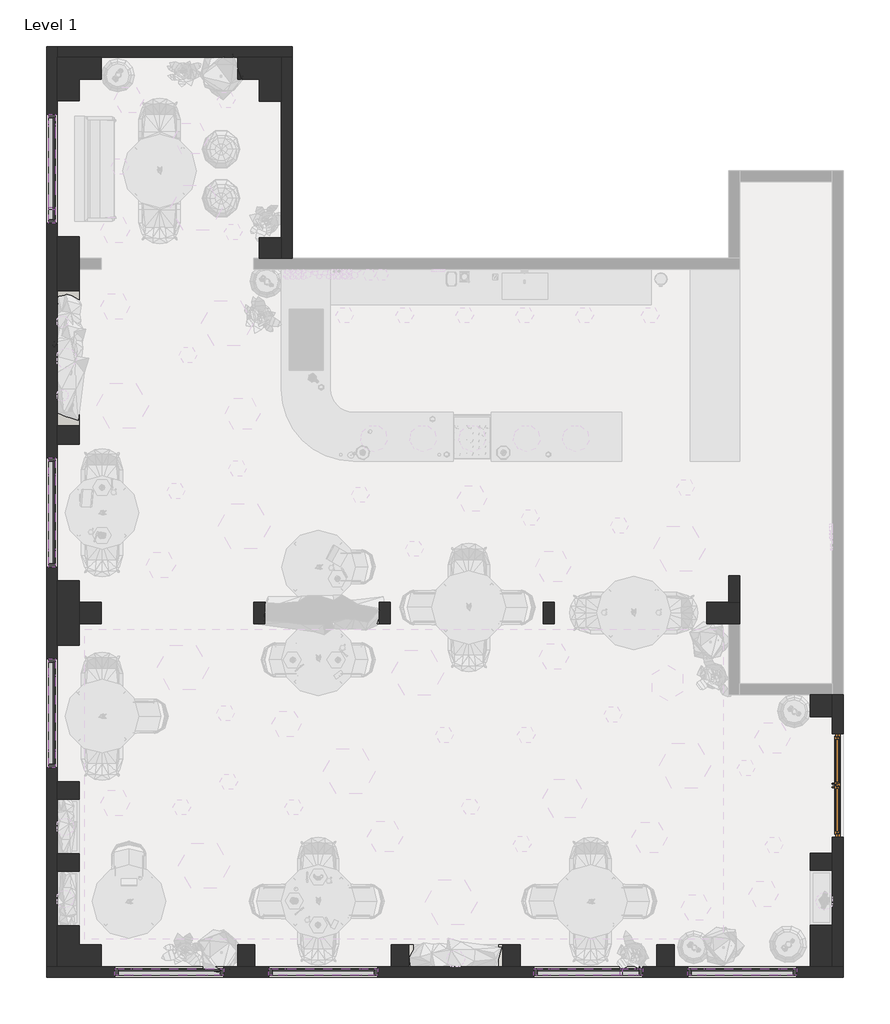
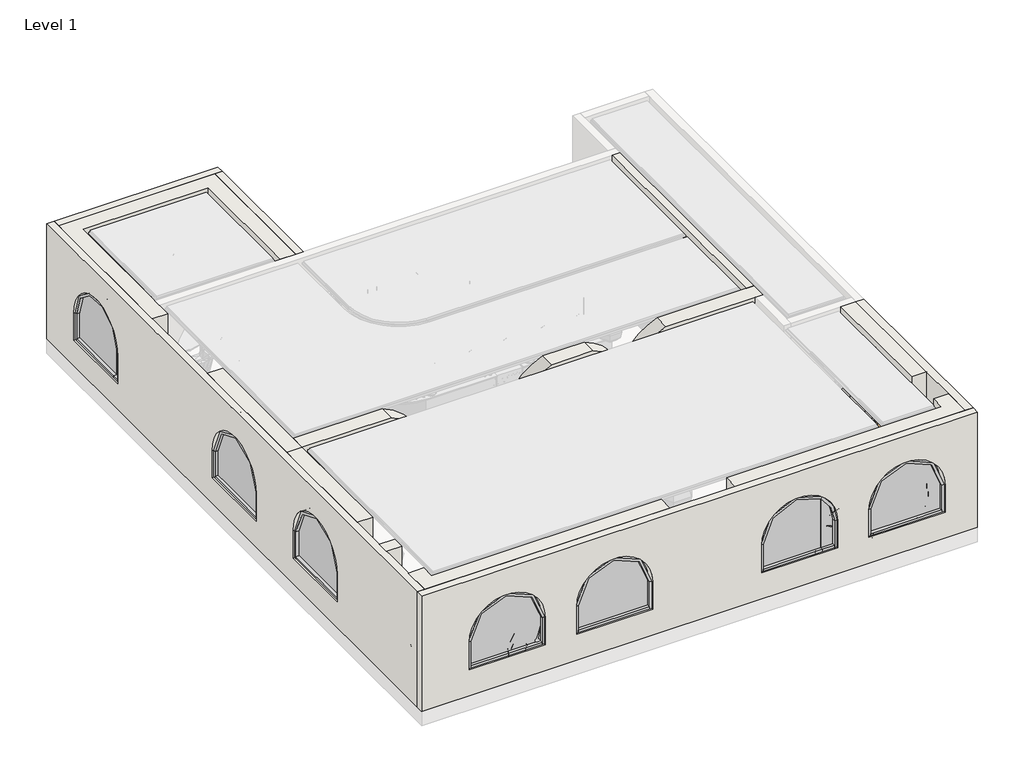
# One storey, part 1 of 5: 32 members, 8 plates, 8 walls, 1 door.
"""IFC4 building model written with IfcOpenShell, lengths in millimetres."""

from ifc_helpers import new_model, si_unit, frame, origin, origin_with_axes, place, context, project, spatial, polyline, circle_curve, outline, extrude, faceted_brep, transform, mapped, element, save
from ifc_brep_helpers import plane_surface, cylinder_surface, revolved_surface, advanced_brep
from components import door_6dfe5dd6, door_fb300161, rectangular_mullion_rectangular_mullion_1_03948899, rectangular_mullion_rectangular_mullion_1_28b96d86, rectangular_mullion_rectangular_mullion_1_f4f6b5f9, rectangular_mullion_rectangular_mullion_1_8472e7ee, rectangular_mullion_rectangular_mullion_1_5157a9ce, rectangular_mullion_rectangular_mullion_1_7fe311f0, rectangular_mullion_rectangular_mullion_1_14760a62, rectangular_mullion_rectangular_mullion_1_e45695c4, rectangular_mullion_rectangular_mullion_1_44025b5a, rectangular_mullion_rectangular_mullion_1_041cd801, rectangular_mullion_rectangular_mullion_1_71a928bc, rectangular_mullion_rectangular_mullion_1_e2af7eb3, system_panel_glazed_120e4517, system_panel_glazed_8ac893f6, system_panel_glazed_e6b3609a, system_panel_glazed_47a2865e, system_panel_glazed_592029a4, system_panel_glazed_b415359f, walls_1_walls_1_fb9d67e2, walls_2_walls_2_3500fc2a

model = new_model("IFC4")

# Units and contexts
model_context = context("Model", 3, world=origin())
ifc_project = project(units=[si_unit("LENGTHUNIT", "METRE", prefix="MILLI")], contexts=[model_context])

# Site, building, storey
site = spatial("IfcSite", under=ifc_project)
building = spatial("IfcBuilding", under=site)
storey = spatial("IfcBuildingStorey", under=building, Name="Level 1", Elevation=0.0)

# Door
placement = place(None, origin())
door_shape = door_6dfe5dd6(model_context)
door_2_shape = door_fb300161(model_context)
element("IfcDoor", 1, ObjectType="Doors_GEALAN_S9000_Double-Vent-Door : Doors_GEALAN_S9000_Double-Vent-Door", at=placement, inside=storey, context=model_context, shape_type="MappedRepresentation", body=[
    mapped(door_shape, transform((25935.1576528, -149.6399174, 0.0), x_axis=(0.0, -1.0, 0.0), y_axis=(1.0, 0.0, 0.0), z_axis=(0.0, 0.0, 1.0))),
    mapped(door_2_shape, transform((25935.1576528, -149.6399174, 0.0), x_axis=(0.0, -1.0, 0.0), y_axis=(1.0, 0.0, 0.0), z_axis=(0.0, 0.0, 1.0))),
])

# Members
rectangular_mullion_rectangular_mullion_1_shape = rectangular_mullion_rectangular_mullion_1_03948899(model_context)
element("IfcMember", 2, ObjectType="Rectangular Mullion : Rectangular Mullion 1", at=placement, inside=storey, context=model_context, shape_type="MappedRepresentation", body=[
    mapped(rectangular_mullion_rectangular_mullion_1_shape, transform((11535.1576528, 10150.3600826, 1472.3), x_axis=(0.0, -1.0, 0.0), y_axis=(-1.0, 0.0, 0.0), z_axis=(0.0, 0.0, -1.0))),
])
rectangular_mullion_rectangular_mullion_1_2_shape = rectangular_mullion_rectangular_mullion_1_28b96d86(model_context)
element("IfcMember", 3, ObjectType="Rectangular Mullion : Rectangular Mullion 1", at=placement, inside=storey, context=model_context, shape_type="MappedRepresentation", body=[
    mapped(rectangular_mullion_rectangular_mullion_1_2_shape, transform((11535.1576528, 10150.3600826, 722.3), x_axis=(0.0, -1.0, 0.0), y_axis=(-1.0, 0.0, 0.0), z_axis=(0.0, 0.0, -1.0))),
])
rectangular_mullion_rectangular_mullion_1_3_shape = rectangular_mullion_rectangular_mullion_1_f4f6b5f9(model_context)
element("IfcMember", 4, ObjectType="Rectangular Mullion : Rectangular Mullion 1", at=placement, inside=storey, context=model_context, shape_type="MappedRepresentation", body=[
    mapped(rectangular_mullion_rectangular_mullion_1_3_shape, transform((11535.1576528, 10397.0267491, 722.3), x_axis=(0.0, 0.0, -1.0), y_axis=(-1.0, 0.0, 0.0), z_axis=(0.0, 1.0, 0.0))),
])
rectangular_mullion_rectangular_mullion_1_4_shape = rectangular_mullion_rectangular_mullion_1_8472e7ee(model_context)
element("IfcMember", 5, ObjectType="Rectangular Mullion : Rectangular Mullion 1", at=placement, inside=storey, context=model_context, shape_type="MappedRepresentation", body=[
    mapped(rectangular_mullion_rectangular_mullion_1_4_shape, transform((11535.1576528, 10397.0267491, 2129.938874), x_axis=(0.0, -0.753333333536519, 0.6576388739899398), y_axis=(-1.0, 0.0, 0.0), z_axis=(0.0, -0.6576388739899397, -0.7533333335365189))),
])
rectangular_mullion_rectangular_mullion_1_5_shape = rectangular_mullion_rectangular_mullion_1_5157a9ce(model_context)
element("IfcMember", 6, ObjectType="Rectangular Mullion : Rectangular Mullion 1", at=placement, inside=storey, context=model_context, shape_type="MappedRepresentation", body=[
    mapped(rectangular_mullion_rectangular_mullion_1_5_shape, transform((11535.1576528, 12086.8600826, 722.3), x_axis=(0.0, 0.0, -1.0), y_axis=(-1.0, 0.0, 0.0), z_axis=(0.0, 1.0, 0.0))),
])
element("IfcMember", 7, ObjectType="Rectangular Mullion : Rectangular Mullion 1", at=placement, inside=storey, context=model_context, shape_type="MappedRepresentation", body=[
    mapped(rectangular_mullion_rectangular_mullion_1_2_shape, transform((11535.1576528, 12150.3600826, 1472.3), x_axis=(0.0, 1.0, 0.0), y_axis=(-1.0, 0.0, 0.0), z_axis=(0.0, 0.0, 1.0))),
])
rectangular_mullion_rectangular_mullion_1_6_shape = rectangular_mullion_rectangular_mullion_1_7fe311f0(model_context)
element("IfcMember", 8, ObjectType="Rectangular Mullion : Rectangular Mullion 1", at=placement, inside=storey, context=model_context, shape_type="MappedRepresentation", body=[
    mapped(rectangular_mullion_rectangular_mullion_1_6_shape, transform((11535.1576528, 3850.3600826, 1472.3), x_axis=(0.0, -1.0, 0.0), y_axis=(-1.0, 0.0, 0.0), z_axis=(0.0, 0.0, -1.0))),
])
element("IfcMember", 9, ObjectType="Rectangular Mullion : Rectangular Mullion 1", at=placement, inside=storey, context=model_context, shape_type="MappedRepresentation", body=[
    mapped(rectangular_mullion_rectangular_mullion_1_6_shape, transform((11535.1576528, 170.3600826, 1472.3), x_axis=(0.0, -1.0, 0.0), y_axis=(-1.0, 0.0, 0.0), z_axis=(0.0, 0.0, -1.0))),
])
element("IfcMember", 10, ObjectType="Rectangular Mullion : Rectangular Mullion 1", at=placement, inside=storey, context=model_context, shape_type="MappedRepresentation", body=[
    mapped(rectangular_mullion_rectangular_mullion_1_6_shape, transform((14685.1576528, -3569.6399174, 1472.3269791), x_axis=(1.0, 0.0, 0.0), y_axis=(0.0, -1.0, 0.0), z_axis=(0.0, 0.0, -1.0))),
])
element("IfcMember", 11, ObjectType="Rectangular Mullion : Rectangular Mullion 1", at=placement, inside=storey, context=model_context, shape_type="MappedRepresentation", body=[
    mapped(rectangular_mullion_rectangular_mullion_1_6_shape, transform((17505.1576528, -3569.6399174, 1472.3269791), x_axis=(1.0, 0.0, 0.0), y_axis=(0.0, -1.0, 0.0), z_axis=(0.0, 0.0, -1.0))),
])
element("IfcMember", 12, ObjectType="Rectangular Mullion : Rectangular Mullion 1", at=placement, inside=storey, context=model_context, shape_type="MappedRepresentation", body=[
    mapped(rectangular_mullion_rectangular_mullion_1_6_shape, transform((25185.1576528, -3569.6399174, 1472.3269791), x_axis=(1.0, 0.0, 0.0), y_axis=(0.0, -1.0, 0.0), z_axis=(0.0, 0.0, -1.0))),
])
element("IfcMember", 13, ObjectType="Rectangular Mullion : Rectangular Mullion 1", at=placement, inside=storey, context=model_context, shape_type="MappedRepresentation", body=[
    mapped(rectangular_mullion_rectangular_mullion_1_2_shape, transform((11535.1576528, 3850.3600826, 722.3), x_axis=(0.0, -1.0, 0.0), y_axis=(-1.0, 0.0, 0.0), z_axis=(0.0, 0.0, -1.0))),
])
element("IfcMember", 14, ObjectType="Rectangular Mullion : Rectangular Mullion 1", at=placement, inside=storey, context=model_context, shape_type="MappedRepresentation", body=[
    mapped(rectangular_mullion_rectangular_mullion_1_2_shape, transform((11535.1576528, 170.3600826, 722.3), x_axis=(0.0, -1.0, 0.0), y_axis=(-1.0, 0.0, 0.0), z_axis=(0.0, 0.0, -1.0))),
])
rectangular_mullion_rectangular_mullion_1_7_shape = rectangular_mullion_rectangular_mullion_1_14760a62(model_context)
element("IfcMember", 15, ObjectType="Rectangular Mullion : Rectangular Mullion 1", at=placement, inside=storey, context=model_context, shape_type="MappedRepresentation", body=[
    mapped(rectangular_mullion_rectangular_mullion_1_7_shape, transform((11535.1576528, 5786.8600826, 722.3), x_axis=(0.0, 0.0, -1.0), y_axis=(-1.0, 0.0, 0.0), z_axis=(0.0, 1.0, 0.0))),
])
element("IfcMember", 16, ObjectType="Rectangular Mullion : Rectangular Mullion 1", at=placement, inside=storey, context=model_context, shape_type="MappedRepresentation", body=[
    mapped(rectangular_mullion_rectangular_mullion_1_7_shape, transform((11535.1576528, 2106.8600826, 722.3), x_axis=(0.0, 0.0, -1.0), y_axis=(-1.0, 0.0, 0.0), z_axis=(0.0, 1.0, 0.0))),
])
element("IfcMember", 17, ObjectType="Rectangular Mullion : Rectangular Mullion 1", at=placement, inside=storey, context=model_context, shape_type="MappedRepresentation", body=[
    mapped(rectangular_mullion_rectangular_mullion_1_7_shape, transform((12748.6576528, -3569.6399174, 722.3), x_axis=(0.0, 0.0, -1.0), y_axis=(0.0, -1.0, 0.0), z_axis=(-1.0, 0.0, 0.0))),
])
element("IfcMember", 18, ObjectType="Rectangular Mullion : Rectangular Mullion 1", at=placement, inside=storey, context=model_context, shape_type="MappedRepresentation", body=[
    mapped(rectangular_mullion_rectangular_mullion_1_7_shape, transform((15568.6576528, -3569.6399174, 722.3), x_axis=(0.0, 0.0, -1.0), y_axis=(0.0, -1.0, 0.0), z_axis=(-1.0, 0.0, 0.0))),
])
element("IfcMember", 19, ObjectType="Rectangular Mullion : Rectangular Mullion 1", at=placement, inside=storey, context=model_context, shape_type="MappedRepresentation", body=[
    mapped(rectangular_mullion_rectangular_mullion_1_7_shape, transform((23248.6576528, -3569.6399174, 722.3), x_axis=(0.0, 0.0, -1.0), y_axis=(0.0, -1.0, 0.0), z_axis=(-1.0, 0.0, 0.0))),
])
element("IfcMember", 20, ObjectType="Rectangular Mullion : Rectangular Mullion 1", at=placement, inside=storey, context=model_context, shape_type="MappedRepresentation", body=[
    mapped(rectangular_mullion_rectangular_mullion_1_2_shape, transform((11535.1576528, 5850.3600826, 1472.3), x_axis=(0.0, 1.0, 0.0), y_axis=(-1.0, 0.0, 0.0), z_axis=(0.0, 0.0, 1.0))),
])
element("IfcMember", 21, ObjectType="Rectangular Mullion : Rectangular Mullion 1", at=placement, inside=storey, context=model_context, shape_type="MappedRepresentation", body=[
    mapped(rectangular_mullion_rectangular_mullion_1_2_shape, transform((11535.1576528, 2170.3600826, 1472.3), x_axis=(0.0, 1.0, 0.0), y_axis=(-1.0, 0.0, 0.0), z_axis=(0.0, 0.0, 1.0))),
])
element("IfcMember", 22, ObjectType="Rectangular Mullion : Rectangular Mullion 1", at=placement, inside=storey, context=model_context, shape_type="MappedRepresentation", body=[
    mapped(rectangular_mullion_rectangular_mullion_1_2_shape, transform((12685.1576528, -3569.6399174, 1472.3269791), x_axis=(-1.0, 0.0, 0.0), y_axis=(0.0, -1.0, 0.0), z_axis=(0.0, 0.0, 1.0))),
])
element("IfcMember", 23, ObjectType="Rectangular Mullion : Rectangular Mullion 1", at=placement, inside=storey, context=model_context, shape_type="MappedRepresentation", body=[
    mapped(rectangular_mullion_rectangular_mullion_1_2_shape, transform((15505.1576528, -3569.6399174, 1472.3269791), x_axis=(-1.0, 0.0, 0.0), y_axis=(0.0, -1.0, 0.0), z_axis=(0.0, 0.0, 1.0))),
])
element("IfcMember", 24, ObjectType="Rectangular Mullion : Rectangular Mullion 1", at=placement, inside=storey, context=model_context, shape_type="MappedRepresentation", body=[
    mapped(rectangular_mullion_rectangular_mullion_1_2_shape, transform((23185.1576528, -3569.6399174, 1472.3269791), x_axis=(-1.0, 0.0, 0.0), y_axis=(0.0, -1.0, 0.0), z_axis=(0.0, 0.0, 1.0))),
])
rectangular_mullion_rectangular_mullion_1_8_shape = rectangular_mullion_rectangular_mullion_1_e45695c4(model_context)
element("IfcMember", 25, ObjectType="Rectangular Mullion : Rectangular Mullion 1", at=placement, inside=storey, context=model_context, shape_type="MappedRepresentation", body=[
    mapped(rectangular_mullion_rectangular_mullion_1_8_shape, transform((14685.1576528, -3569.6399174, 722.3), x_axis=(1.0, 0.0, 0.0), y_axis=(0.0, -1.0, 0.0), z_axis=(0.0, 0.0, -1.0))),
])
element("IfcMember", 26, ObjectType="Rectangular Mullion : Rectangular Mullion 1", at=placement, inside=storey, context=model_context, shape_type="MappedRepresentation", body=[
    mapped(rectangular_mullion_rectangular_mullion_1_8_shape, transform((17505.1576528, -3569.6399174, 722.3), x_axis=(1.0, 0.0, 0.0), y_axis=(0.0, -1.0, 0.0), z_axis=(0.0, 0.0, -1.0))),
])
element("IfcMember", 27, ObjectType="Rectangular Mullion : Rectangular Mullion 1", at=placement, inside=storey, context=model_context, shape_type="MappedRepresentation", body=[
    mapped(rectangular_mullion_rectangular_mullion_1_8_shape, transform((25185.1576528, -3569.6399174, 722.3), x_axis=(1.0, 0.0, 0.0), y_axis=(0.0, -1.0, 0.0), z_axis=(0.0, 0.0, -1.0))),
])
rectangular_mullion_rectangular_mullion_1_9_shape = rectangular_mullion_rectangular_mullion_1_44025b5a(model_context)
element("IfcMember", 28, ObjectType="Rectangular Mullion : Rectangular Mullion 1", at=placement, inside=storey, context=model_context, shape_type="MappedRepresentation", body=[
    mapped(rectangular_mullion_rectangular_mullion_1_9_shape, transform((21985.1576527, -3569.6399174, 2256.928789), x_axis=(0.6199999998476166, 0.0, 0.7846018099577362), y_axis=(0.0, -1.0, 0.0), z_axis=(0.7846018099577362, 0.0, -0.6199999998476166))),
])
rectangular_mullion_rectangular_mullion_1_10_shape = rectangular_mullion_rectangular_mullion_1_041cd801(model_context)
element("IfcMember", 29, ObjectType="Rectangular Mullion : Rectangular Mullion 1", at=placement, inside=storey, context=model_context, shape_type="MappedRepresentation", body=[
    mapped(rectangular_mullion_rectangular_mullion_1_10_shape, transform((22365.1576528, -3569.6399174, 1472.3269791), x_axis=(1.0, 0.0, 0.0), y_axis=(0.0, -1.0, 0.0), z_axis=(0.0, 0.0, -1.0))),
])
element("IfcMember", 30, ObjectType="Rectangular Mullion : Rectangular Mullion 1", at=placement, inside=storey, context=model_context, shape_type="MappedRepresentation", body=[
    mapped(rectangular_mullion_rectangular_mullion_1_8_shape, transform((20365.1576528, -3569.6399174, 1472.3269791), x_axis=(-1.0, 0.0, 0.0), y_axis=(0.0, -1.0, 0.0), z_axis=(0.0, 0.0, 1.0))),
])
element("IfcMember", 31, ObjectType="Rectangular Mullion : Rectangular Mullion 1", at=placement, inside=storey, context=model_context, shape_type="MappedRepresentation", body=[
    mapped(rectangular_mullion_rectangular_mullion_1_8_shape, transform((22365.1576528, -3569.6399174, 722.3), x_axis=(1.0, 0.0, 0.0), y_axis=(0.0, -1.0, 0.0), z_axis=(0.0, 0.0, -1.0))),
])
rectangular_mullion_rectangular_mullion_1_11_shape = rectangular_mullion_rectangular_mullion_1_71a928bc(model_context)
element("IfcMember", 32, ObjectType="Rectangular Mullion : Rectangular Mullion 1", at=placement, inside=storey, context=model_context, shape_type="MappedRepresentation", body=[
    mapped(rectangular_mullion_rectangular_mullion_1_11_shape, transform((21985.1576527, -3569.6399174, 722.3), x_axis=(0.0, 0.0, -1.0), y_axis=(0.0, -1.0, 0.0), z_axis=(-1.0, 0.0, 0.0))),
])
rectangular_mullion_rectangular_mullion_1_12_shape = rectangular_mullion_rectangular_mullion_1_e2af7eb3(model_context)
element("IfcMember", 33, ObjectType="Rectangular Mullion : Rectangular Mullion 1", at=placement, inside=storey, context=model_context, shape_type="MappedRepresentation", body=[
    mapped(rectangular_mullion_rectangular_mullion_1_12_shape, transform((20428.6576528, -3569.6399174, 722.3), x_axis=(0.0, 0.0, -1.0), y_axis=(0.0, -1.0, 0.0), z_axis=(-1.0, 0.0, 0.0))),
])

# Plates
system_panel_glazed_shape = system_panel_glazed_120e4517(model_context)
element("IfcPlate", 34, ObjectType="System Panel : Glazed", at=placement, inside=storey, context=model_context, shape_type="MappedRepresentation", body=[
    mapped(system_panel_glazed_shape, transform((11535.1576528, 10305.4434159, 785.8), x_axis=(0.0, -1.0, 0.0), y_axis=(1.0, 0.0, 0.0), z_axis=(0.0, 0.0, 1.0))),
])
system_panel_glazed_2_shape = system_panel_glazed_8ac893f6(model_context)
element("IfcPlate", 35, ObjectType="System Panel : Glazed", at=placement, inside=storey, context=model_context, shape_type="MappedRepresentation", body=[
    mapped(system_panel_glazed_2_shape, transform((11535.1576528, 11241.9434159, 785.8), x_axis=(0.0, -1.0, 0.0), y_axis=(1.0, 0.0, 0.0), z_axis=(0.0, 0.0, 1.0))),
])
system_panel_glazed_3_shape = system_panel_glazed_e6b3609a(model_context)
element("IfcPlate", 36, ObjectType="System Panel : Glazed", at=placement, inside=storey, context=model_context, shape_type="MappedRepresentation", body=[
    mapped(system_panel_glazed_3_shape, transform((11535.1576528, 4850.3600826, 785.8), x_axis=(0.0, -1.0, 0.0), y_axis=(1.0, 0.0, 0.0), z_axis=(0.0, 0.0, 1.0))),
])
element("IfcPlate", 37, ObjectType="System Panel : Glazed", at=placement, inside=storey, context=model_context, shape_type="MappedRepresentation", body=[
    mapped(system_panel_glazed_3_shape, transform((11535.1576528, 1170.3600826, 785.8), x_axis=(0.0, -1.0, 0.0), y_axis=(1.0, 0.0, 0.0), z_axis=(0.0, 0.0, 1.0))),
])
system_panel_glazed_4_shape = system_panel_glazed_47a2865e(model_context)
element("IfcPlate", 38, ObjectType="System Panel : Glazed", at=placement, inside=storey, context=model_context, shape_type="MappedRepresentation", body=[
    mapped(system_panel_glazed_4_shape, transform((13685.1576528, -3569.6399174, 785.8), x_axis=(1.0, 0.0, 0.0), y_axis=(0.0, 1.0, 0.0), z_axis=(0.0, 0.0, 1.0))),
])
element("IfcPlate", 39, ObjectType="System Panel : Glazed", at=placement, inside=storey, context=model_context, shape_type="MappedRepresentation", body=[
    mapped(system_panel_glazed_4_shape, transform((16505.1576528, -3569.6399174, 785.8), x_axis=(1.0, 0.0, 0.0), y_axis=(0.0, 1.0, 0.0), z_axis=(0.0, 0.0, 1.0))),
])
system_panel_glazed_5_shape = system_panel_glazed_592029a4(model_context)
element("IfcPlate", 40, ObjectType="System Panel : Glazed", at=placement, inside=storey, context=model_context, shape_type="MappedRepresentation", body=[
    mapped(system_panel_glazed_5_shape, transform((21206.9076528, -3569.6399174, 785.8), x_axis=(1.0, 0.0, 0.0), y_axis=(0.0, 1.0, 0.0), z_axis=(0.0, 0.0, 1.0))),
])
system_panel_glazed_6_shape = system_panel_glazed_b415359f(model_context)
element("IfcPlate", 41, ObjectType="System Panel : Glazed", at=placement, inside=storey, context=model_context, shape_type="MappedRepresentation", body=[
    mapped(system_panel_glazed_6_shape, transform((23553.4076528, -3569.6399174, 785.8), x_axis=(1.0, 0.0, 0.0), y_axis=(0.0, 1.0, 0.0), z_axis=(0.0, 0.0, 1.0))),
])

# Walls
element("IfcWall", 42, ObjectType="Generic - 20 cm", at=placement, inside=storey, context=model_context, shape_type="AdvancedBrep", body=[
    advanced_brep(
    [(11435.1576528, 13390.3600826, 0.0), (11435.1576528, -3469.6399174, 0.0), (11435.1576528, -3469.6399174, 3200.0), (11435.1576528, 13390.3600826, 3200.0), (11435.1576528, 12150.3600826, 1472.3), (11435.1576528, 10150.3600826, 1472.3), (11435.1576528, 10150.3600826, 722.3), (11435.1576528, 12150.3600826, 722.3), (11435.1576528, 5850.3600826, 1472.3), (11435.1576528, 3850.3600826, 1472.3), (11435.1576528, 3850.3600826, 722.3), (11435.1576528, 5850.3600826, 722.3), (11435.1576528, 2170.3600826, 1472.3), (11435.1576528, 170.3600826, 1472.3), (11435.1576528, 170.3600826, 722.3), (11435.1576528, 2170.3600826, 722.3), (11635.1576528, -3469.6399174, 0.0), (11635.1576528, 13190.3600826, 0.0), (11635.1576528, 13390.3600826, 0.0), (11635.1576528, 13390.3600826, 3200.0), (11635.1576528, 13190.3600826, 3200.0), (11635.1576528, -3469.6399174, 3200.0), (11635.1576528, 10150.3600826, 1472.3), (11635.1576528, 12150.3600826, 1472.3), (11635.1576528, 12150.3600826, 722.3), (11635.1576528, 10150.3600826, 722.3), (11635.1576528, 3850.3600826, 1472.3), (11635.1576528, 5850.3600826, 1472.3), (11635.1576528, 5850.3600826, 722.3), (11635.1576528, 3850.3600826, 722.3), (11635.1576528, 170.3600826, 1472.3), (11635.1576528, 2170.3600826, 1472.3), (11635.1576528, 2170.3600826, 722.3), (11635.1576528, 170.3600826, 722.3)],
    [
        (0, 1),
        (1, 2),
        (2, 3),
        (3, 0),
        (4, 5, circle_curve(frame((11435.1576528, 11150.3600826, 1472.3), z_axis=(1.0, 0.0, 0.0), x_axis=(0.0, 1.0, 0.0)), 1000.0)),
        (5, 6),
        (6, 7),
        (7, 4),
        (8, 9, circle_curve(frame((11435.1576528, 4850.3600826, 1472.3), z_axis=(1.0, 0.0, 0.0), x_axis=(0.0, 1.0, 0.0)), 1000.0)),
        (9, 10),
        (10, 11),
        (11, 8),
        (12, 13, circle_curve(frame((11435.1576528, 1170.3600826, 1472.3), z_axis=(1.0, 0.0, 0.0), x_axis=(0.0, 1.0, 0.0)), 1000.0)),
        (13, 14),
        (14, 15),
        (15, 12),
        (16, 17),
        (17, 18),
        (18, 19),
        (19, 20),
        (20, 21),
        (21, 16),
        (22, 23, circle_curve(frame((11635.1576528, 11150.3600826, 1472.3), z_axis=(-1.0, 0.0, 0.0), x_axis=(0.0, 1.0, 0.0)), 1000.0)),
        (23, 24),
        (24, 25),
        (25, 22),
        (26, 27, circle_curve(frame((11635.1576528, 4850.3600826, 1472.3), z_axis=(-1.0, 0.0, 0.0), x_axis=(0.0, 1.0, 0.0)), 1000.0)),
        (27, 28),
        (28, 29),
        (29, 26),
        (30, 31, circle_curve(frame((11635.1576528, 1170.3600826, 1472.3), z_axis=(-1.0, 0.0, 0.0), x_axis=(0.0, 1.0, 0.0)), 1000.0)),
        (31, 32),
        (32, 33),
        (33, 30),
        (0, 18),
        (16, 1),
        (2, 21),
        (19, 3),
        (4, 23),
        (22, 5),
        (7, 24),
        (25, 6),
        (8, 27),
        (26, 9),
        (29, 10),
        (28, 11),
        (12, 31),
        (30, 13),
        (33, 14),
        (32, 15),
    ],
    [
        plane_surface(frame((11435.1576528, 12610.3600826, 0.0), z_axis=(-1.0, 0.0, 0.0), x_axis=(0.0, -1.0, 0.0))),
        plane_surface(frame((11635.1576528, 12610.3600826, 0.0), z_axis=(1.0, 0.0, 0.0), x_axis=(0.0, 1.0, 0.0))),
        plane_surface(frame((11435.1576528, 13290.3600826, 0.0), z_axis=(0.0, 0.0, -1.0), x_axis=(1.0, 0.0, 0.0))),
        plane_surface(frame((15935.1576528, 13390.3600826, 3200.0), z_axis=(0.0, 0.0, 1.0), x_axis=(0.0, -1.0, 0.0))),
        plane_surface(frame((11635.1576528, -3469.6399174, 0.0), z_axis=(0.0, -1.0, 0.0), x_axis=(-1.0, 0.0, 0.0))),
        plane_surface(frame((15735.1576528, 13390.3600826, 0.0), z_axis=(0.0, 1.0, 0.0), x_axis=(-1.0, 0.0, 0.0))),
        revolved_surface(polyline([(11635.1576528, 12150.3600826, 1472.3), (11435.1576528, 12150.3600826, 1472.3)]), (11547.6576528, 11150.3600826, 1472.3), (1.0, 0.0, 0.0)),
        plane_surface(frame((11787.5576528, 12150.3600826, 722.3), z_axis=(0.0, -1.0, 0.0), x_axis=(-1.0, 0.0, 0.0))),
        plane_surface(frame((11787.5576528, 10150.3600826, 1472.3), z_axis=(0.0, 1.0, 0.0), x_axis=(-1.0, 0.0, 0.0))),
        plane_surface(frame((11787.5576528, 10150.3600826, 722.3), z_axis=(0.0, 0.0, 1.0), x_axis=(-1.0, 0.0, 0.0))),
        revolved_surface(polyline([(11635.1576528, 5850.3600826, 1472.3), (11435.1576528, 5850.3600826, 1472.3)]), (11547.6576528, 4850.3600826, 1472.3), (1.0, 0.0, 0.0)),
        plane_surface(frame((11787.5576528, 3850.3600826, 1472.3), z_axis=(0.0, 1.0, 0.0), x_axis=(-1.0, 0.0, 0.0))),
        plane_surface(frame((11787.5576528, 3850.3600826, 722.3), z_axis=(0.0, 0.0, 1.0), x_axis=(-1.0, 0.0, 0.0))),
        plane_surface(frame((11787.5576528, 5850.3600826, 722.3), z_axis=(0.0, -1.0, 0.0), x_axis=(-1.0, 0.0, 0.0))),
        revolved_surface(polyline([(11635.1576528, 2170.3600826, 1472.3), (11435.1576528, 2170.3600826, 1472.3)]), (11547.6576528, 1170.3600826, 1472.3), (1.0, 0.0, 0.0)),
        plane_surface(frame((11787.5576528, 170.3600826, 1472.3), z_axis=(0.0, 1.0, 0.0), x_axis=(-1.0, 0.0, 0.0))),
        plane_surface(frame((11787.5576528, 170.3600826, 722.3), z_axis=(0.0, 0.0, 1.0), x_axis=(-1.0, 0.0, 0.0))),
        plane_surface(frame((11787.5576528, 2170.3600826, 722.3), z_axis=(0.0, -1.0, 0.0), x_axis=(-1.0, 0.0, 0.0))),
    ],
    [
        (0, [[1, 2, 3, 4], [5, 6, 7, 8], [9, 10, 11, 12], [13, 14, 15, 16]]),
        (1, [[17, 18, 19, 20, 21, 22], [23, 24, 25, 26], [27, 28, 29, 30], [31, 32, 33, 34]]),
        (2, [[-1, 35, -18, -17, 36]]),
        (3, [[-3, 37, -21, -20, 38]]),
        (4, [[-2, -36, -22, -37]]),
        (5, [[-4, -38, -19, -35]]),
        (6, [[39, -23, 40, -5]]),
        (7, [[-39, -8, 41, -24]]),
        (8, [[-40, -26, 42, -6]]),
        (9, [[-41, -7, -42, -25]]),
        (10, [[43, -27, 44, -9]]),
        (11, [[-44, -30, 45, -10]]),
        (12, [[-45, -29, 46, -11]]),
        (13, [[-43, -12, -46, -28]]),
        (14, [[47, -31, 48, -13]]),
        (15, [[-48, -34, 49, -14]]),
        (16, [[-49, -33, 50, -15]]),
        (17, [[-47, -16, -50, -32]]),
    ],
),
])
element("IfcWall", 43, ObjectType="Generic - 20 cm", at=placement, inside=storey, context=model_context, shape_type="AdvancedBrep", body=[
    advanced_brep(
    [(11435.1576528, -3669.6399174, 0.0), (26035.1576528, -3669.6399174, 0.0), (26035.1576528, -3669.6399174, 3200.0), (11435.1576528, -3669.6399174, 3200.0), (14685.1576528, -3669.6399174, 722.3), (12685.1576528, -3669.6399174, 722.3), (12685.1576528, -3669.6399174, 1472.3269791), (14685.1576528, -3669.6399174, 1472.3269791), (17505.1576528, -3669.6399174, 1472.3269791), (17505.1576528, -3669.6399174, 722.3), (15505.1576528, -3669.6399174, 722.3), (15505.1576528, -3669.6399174, 1472.3269791), (22365.1576528, -3669.6399174, 1472.3269791), (22365.1576528, -3669.6399174, 722.3), (20365.1576528, -3669.6399174, 722.3), (20365.1576528, -3669.6399174, 1472.3269791), (25185.1576528, -3669.6399174, 1472.3269791), (25185.1576528, -3669.6399174, 722.3), (23185.1576528, -3669.6399174, 722.3), (23185.1576528, -3669.6399174, 1472.3269791), (26035.1576528, -3469.6399174, 0.0), (25835.1576528, -3469.6399174, 0.0), (11635.1576528, -3469.6399174, 0.0), (11435.1576528, -3469.6399174, 0.0), (11435.1576528, -3469.6399174, 3200.0), (11635.1576528, -3469.6399174, 3200.0), (25835.1576528, -3469.6399174, 3200.0), (26035.1576528, -3469.6399174, 3200.0), (12685.1576528, -3469.6399174, 722.3), (14685.1576528, -3469.6399174, 722.3), (14685.1576528, -3469.6399174, 1472.3269791), (12685.1576528, -3469.6399174, 1472.3269791), (17505.1576528, -3469.6399174, 722.3), (17505.1576528, -3469.6399174, 1472.3269791), (15505.1576528, -3469.6399174, 1472.3269791), (15505.1576528, -3469.6399174, 722.3), (22365.1576528, -3469.6399174, 722.3), (22365.1576528, -3469.6399174, 1472.3269791), (20365.1576528, -3469.6399174, 1472.3269791), (20365.1576528, -3469.6399174, 722.3), (25185.1576528, -3469.6399174, 722.3), (25185.1576528, -3469.6399174, 1472.3269791), (23185.1576528, -3469.6399174, 1472.3269791), (23185.1576528, -3469.6399174, 722.3)],
    [
        (0, 1),
        (1, 2),
        (2, 3),
        (3, 0),
        (4, 5),
        (5, 6),
        (6, 7, circle_curve(frame((13685.1576528, -3669.6399174, 1472.3269791), z_axis=(0.0, 1.0, 0.0), x_axis=(-1.0, 0.0, 0.0)), 1000.0)),
        (7, 4),
        (8, 9),
        (9, 10),
        (10, 11),
        (11, 8, circle_curve(frame((16505.1576528, -3669.6399174, 1472.3269791), z_axis=(0.0, 1.0, 0.0), x_axis=(-1.0, 0.0, 0.0)), 1000.0)),
        (12, 13),
        (13, 14),
        (14, 15),
        (15, 12, circle_curve(frame((21365.1576528, -3669.6399174, 1472.3269791), z_axis=(0.0, 1.0, 0.0), x_axis=(-1.0, 0.0, 0.0)), 1000.0)),
        (16, 17),
        (17, 18),
        (18, 19),
        (19, 16, circle_curve(frame((24185.1576528, -3669.6399174, 1472.3269791), z_axis=(0.0, 1.0, 0.0), x_axis=(-1.0, 0.0, 0.0)), 1000.0)),
        (20, 21),
        (21, 22),
        (22, 23),
        (23, 24),
        (24, 25),
        (25, 26),
        (26, 27),
        (27, 20),
        (28, 29),
        (29, 30),
        (30, 31, circle_curve(frame((13685.1576528, -3469.6399174, 1472.3269791), z_axis=(0.0, -1.0, 0.0), x_axis=(-1.0, 0.0, 0.0)), 1000.0)),
        (31, 28),
        (32, 33),
        (33, 34, circle_curve(frame((16505.1576528, -3469.6399174, 1472.3269791), z_axis=(0.0, -1.0, 0.0), x_axis=(-1.0, 0.0, 0.0)), 1000.0)),
        (34, 35),
        (35, 32),
        (36, 37),
        (37, 38, circle_curve(frame((21365.1576528, -3469.6399174, 1472.3269791), z_axis=(0.0, -1.0, 0.0), x_axis=(-1.0, 0.0, 0.0)), 1000.0)),
        (38, 39),
        (39, 36),
        (40, 41),
        (41, 42, circle_curve(frame((24185.1576528, -3469.6399174, 1472.3269791), z_axis=(0.0, -1.0, 0.0), x_axis=(-1.0, 0.0, 0.0)), 1000.0)),
        (42, 43),
        (43, 40),
        (0, 23),
        (20, 1),
        (27, 2),
        (3, 24),
        (4, 29),
        (28, 5),
        (6, 31),
        (30, 7),
        (8, 33),
        (32, 9),
        (35, 10),
        (34, 11),
        (12, 37),
        (36, 13),
        (39, 14),
        (38, 15),
        (16, 41),
        (40, 17),
        (43, 18),
        (42, 19),
    ],
    [
        plane_surface(frame((11635.1576528, -3669.6399174, 0.0), z_axis=(0.0, -1.0, 0.0), x_axis=(1.0, 0.0, 0.0))),
        plane_surface(frame((11635.1576528, -3469.6399174, 0.0), z_axis=(0.0, 1.0, 0.0), x_axis=(-1.0, 0.0, 0.0))),
        plane_surface(frame((11535.1576528, -3669.6399174, 0.0), z_axis=(0.0, 0.0, -1.0), x_axis=(0.0, 1.0, 0.0))),
        plane_surface(frame((26035.1576528, -3689.6399174, 0.0), z_axis=(1.0, 0.0, 0.0), x_axis=(0.0, 1.0, 0.0))),
        plane_surface(frame((11435.1576528, 12610.3600826, 0.0), z_axis=(-1.0, 0.0, 0.0), x_axis=(0.0, -1.0, 0.0))),
        plane_surface(frame((15935.1576528, 13390.3600826, 3200.0), z_axis=(0.0, 0.0, 1.0), x_axis=(0.0, -1.0, 0.0))),
        plane_surface(frame((14685.1576528, -3317.2399174, 722.3), z_axis=(0.0, 0.0, 1.0), x_axis=(0.0, -1.0, 0.0))),
        revolved_surface(polyline([(12685.1576528, -3469.6399174, 1472.3269791), (12685.1576528, -3669.6399174, 1472.3269791)]), (13685.1576528, -3557.1399174, 1472.3269791), (0.0, 1.0, 0.0)),
        plane_surface(frame((14685.1576528, -3317.2399174, 1472.3269791), z_axis=(-1.0, 0.0, 0.0), x_axis=(0.0, -1.0, 0.0))),
        plane_surface(frame((12685.1576528, -3317.2399174, 722.3), z_axis=(1.0, 0.0, 0.0), x_axis=(0.0, -1.0, 0.0))),
        plane_surface(frame((17505.1576528, -3317.2399174, 1472.3269791), z_axis=(-1.0, 0.0, 0.0), x_axis=(0.0, -1.0, 0.0))),
        plane_surface(frame((17505.1576528, -3317.2399174, 722.3), z_axis=(0.0, 0.0, 1.0), x_axis=(0.0, -1.0, 0.0))),
        plane_surface(frame((15505.1576528, -3317.2399174, 722.3), z_axis=(1.0, 0.0, 0.0), x_axis=(0.0, -1.0, 0.0))),
        revolved_surface(polyline([(15505.1576528, -3469.6399174, 1472.3269791), (15505.1576528, -3669.6399174, 1472.3269791)]), (16505.1576528, -3557.1399174, 1472.3269791), (0.0, 1.0, 0.0)),
        plane_surface(frame((22365.1576528, -3317.2399174, 1472.3269791), z_axis=(-1.0, 0.0, 0.0), x_axis=(0.0, -1.0, 0.0))),
        plane_surface(frame((22365.1576528, -3317.2399174, 722.3), z_axis=(0.0, 0.0, 1.0), x_axis=(0.0, -1.0, 0.0))),
        plane_surface(frame((20365.1576528, -3317.2399174, 722.3), z_axis=(1.0, 0.0, 0.0), x_axis=(0.0, -1.0, 0.0))),
        revolved_surface(polyline([(20365.1576528, -3469.6399174, 1472.3269791), (20365.1576528, -3669.6399174, 1472.3269791)]), (21365.1576528, -3557.1399174, 1472.3269791), (0.0, 1.0, 0.0)),
        plane_surface(frame((25185.1576528, -3317.2399174, 1472.3269791), z_axis=(-1.0, 0.0, 0.0), x_axis=(0.0, -1.0, 0.0))),
        plane_surface(frame((25185.1576528, -3317.2399174, 722.3), z_axis=(0.0, 0.0, 1.0), x_axis=(0.0, -1.0, 0.0))),
        plane_surface(frame((23185.1576528, -3317.2399174, 722.3), z_axis=(1.0, 0.0, 0.0), x_axis=(0.0, -1.0, 0.0))),
        revolved_surface(polyline([(23185.1576528, -3469.6399174, 1472.3269791), (23185.1576528, -3669.6399174, 1472.3269791)]), (24185.1576528, -3557.1399174, 1472.3269791), (0.0, 1.0, 0.0)),
    ],
    [
        (0, [[1, 2, 3, 4], [5, 6, 7, 8], [9, 10, 11, 12], [13, 14, 15, 16], [17, 18, 19, 20]]),
        (1, [[21, 22, 23, 24, 25, 26, 27, 28], [29, 30, 31, 32], [33, 34, 35, 36], [37, 38, 39, 40], [41, 42, 43, 44]]),
        (2, [[-1, 45, -23, -22, -21, 46]]),
        (3, [[-2, -46, -28, 47]]),
        (4, [[-4, 48, -24, -45]]),
        (5, [[-3, -47, -27, -26, -25, -48]]),
        (6, [[49, -29, 50, -5]]),
        (7, [[51, -31, 52, -7]]),
        (8, [[-49, -8, -52, -30]]),
        (9, [[-51, -6, -50, -32]]),
        (10, [[53, -33, 54, -9]]),
        (11, [[-54, -36, 55, -10]]),
        (12, [[-55, -35, 56, -11]]),
        (13, [[-53, -12, -56, -34]]),
        (14, [[57, -37, 58, -13]]),
        (15, [[-58, -40, 59, -14]]),
        (16, [[-59, -39, 60, -15]]),
        (17, [[-57, -16, -60, -38]]),
        (18, [[61, -41, 62, -17]]),
        (19, [[-62, -44, 63, -18]]),
        (20, [[-63, -43, 64, -19]]),
        (21, [[-61, -20, -64, -42]]),
    ],
),
])
element("IfcWall", 44, ObjectType="Generic - 20 cm", at=placement, inside=storey, context=model_context, shape_type="SweptSolid", body=[
    extrude(outline(polyline([(-3469.6399174, 0.0), (-3469.6399174, 3200.0), (1510.3600826, 3200.0), (1510.3600826, 0.0), (800.3600826, 0.0), (800.3600826, 2100.0), (-1099.6399174, 2100.0), (-1099.6399174, 0.0), (-3469.6399174, 0.0)])), frame((25835.1576528, 0.0, 0.0), z_axis=(1.0, 0.0, 0.0), x_axis=(0.0, 1.0, 0.0)), (0.0, 0.0, 1.0), 200.0),
])
element("IfcWall", 45, ObjectType="Generic - 20 cm", at=placement, inside=storey, context=model_context, shape_type="Brep", body=[
    faceted_brep([(15935.1576528, 13390.3600826, 0.0), (11635.1576528, 13390.3600826, 0.0), (11635.1576528, 13390.3600826, 3200.0), (15935.1576528, 13390.3600826, 3200.0), (15935.1576528, 13190.3600826, 0.0), (15935.1576528, 13190.3600826, 3200.0), (15735.1576528, 13190.3600826, 3200.0), (11635.1576528, 13190.3600826, 3200.0), (11635.1576528, 13190.3600826, 0.0), (15735.1576528, 13190.3600826, 0.0)], [[[0, 1, 2, 3]], [[4, 5, 6, 7, 8, 9]], [[1, 0, 4, 9, 8]], [[2, 1, 8, 7]], [[0, 3, 5, 4]], [[3, 2, 7, 6, 5]]]),
])
element("IfcWall", 46, ObjectType="Generic - 20 cm", at=placement, inside=storey, context=model_context, shape_type="SweptSolid", body=[
    extrude(outline(polyline([(15935.1576528, 13190.3600826), (15935.1576528, 9510.3600826), (15735.1576528, 9510.3600826), (15735.1576528, 13190.3600826), (15935.1576528, 13190.3600826)])), origin_with_axes(), (0.0, 0.0, 1.0), 3200.0),
])
element("IfcWall", 47, ObjectType="Generic - 40 cm", at=placement, inside=storey, context=model_context, shape_type="AdvancedBrep", body=[
    advanced_brep(
    [(24135.1576528, 3210.3600826, 0.0), (23535.1576528, 3210.3600826, 0.0), (23535.1576528, 3210.3600826, 1693.8222307), (20735.1576528, 3210.3600826, 1693.8222307), (20735.1576528, 3210.3600826, 0.0), (20535.1576528, 3210.3600826, 0.0), (20535.1576528, 3210.3600826, 1693.8222307), (17735.1576528, 3210.3600826, 1693.8222307), (17735.1576528, 3210.3600826, 0.0), (15235.1576528, 3210.3600826, 0.0), (15235.1576528, 3210.3600826, 1693.8222307), (12435.1576528, 3210.3600826, 1693.8222307), (12435.1576528, 3210.3600826, 0.0), (12035.1576528, 3210.3600826, 0.0), (12035.1576528, 3210.3600826, 3200.0), (14374.9988586, 3210.3600826, 3200.0), (15435.1576528, 3210.3600826, 1693.8222307), (15435.1576528, 3210.3600826, 898.6001951), (17535.1576528, 3210.3600826, 1033.1247577), (17535.1576528, 3210.3600826, 1693.8222307), (18595.3164471, 3210.3600826, 3200.0), (19674.9988586, 3210.3600826, 3200.0), (20635.1576528, 3210.3600826, 2250.598667), (21595.3164471, 3210.3600826, 3200.0), (24135.1576528, 3210.3600826, 3200.0), (24135.1576528, 2810.3600826, 0.0), (24135.1576528, 2810.3600826, 3200.0), (23935.1576528, 2810.3600826, 3200.0), (21595.3164471, 2810.3600826, 3200.0), (20635.1576528, 2810.3600826, 2250.598667), (19674.9988586, 2810.3600826, 3200.0), (18595.3164471, 2810.3600826, 3200.0), (17535.1576528, 2810.3600826, 1693.8222307), (17535.1576528, 2810.3600826, 1033.1247577), (15435.1576528, 2810.3600826, 898.6001951), (15435.1576528, 2810.3600826, 1693.8222307), (14374.9988586, 2810.3600826, 3200.0), (12035.1576528, 2810.3600826, 3200.0), (12035.1576528, 2810.3600826, 0.0), (12435.1576528, 2810.3600826, 0.0), (12435.1576528, 2810.3600826, 1693.8222307), (15235.1576528, 2810.3600826, 1693.8222307), (15235.1576528, 2810.3600826, 0.0), (17735.1576528, 2810.3600826, 0.0), (17735.1576528, 2810.3600826, 1693.8222307), (20535.1576528, 2810.3600826, 1693.8222307), (20535.1576528, 2810.3600826, 0.0), (20735.1576528, 2810.3600826, 0.0), (20735.1576528, 2810.3600826, 1693.8222307), (23535.1576528, 2810.3600826, 1693.8222307), (23535.1576528, 2810.3600826, 0.0), (23935.1576528, 2810.3600826, 0.0)],
    [
        (0, 1),
        (1, 2),
        (2, 3, circle_curve(frame((22135.1576528, 3210.3600826, 1693.8222307), z_axis=(0.0, -1.0, 0.0), x_axis=(1.0, 0.0, 0.0)), 1400.0)),
        (3, 4),
        (4, 5),
        (5, 6),
        (6, 7, circle_curve(frame((19135.1576528, 3210.3600826, 1693.8222307), z_axis=(0.0, -1.0, 0.0), x_axis=(1.0, 0.0, 0.0)), 1400.0)),
        (7, 8),
        (8, 9),
        (9, 10),
        (10, 11, circle_curve(frame((13835.1576528, 3210.3600826, 1693.8222307), z_axis=(0.0, -1.0, 0.0), x_axis=(1.0, 0.0, 0.0)), 1400.0)),
        (11, 12),
        (12, 13),
        (13, 14),
        (14, 15),
        (15, 16, circle_curve(frame((13835.1576528, 3210.3600826, 1693.8222307), z_axis=(0.0, 1.0, 0.0), x_axis=(1.0, 0.0, 0.0)), 1600.0)),
        (16, 17),
        (17, 18, circle_curve(frame((16474.5476071, 3210.3600826, 1131.4909363), z_axis=(0.0, -1.0, 0.0), x_axis=(1.0, 0.0, 0.0)), 1065.1617597)),
        (18, 19),
        (19, 20, circle_curve(frame((19135.1576528, 3210.3600826, 1693.8222307), z_axis=(0.0, 1.0, 0.0), x_axis=(1.0, 0.0, 0.0)), 1600.0)),
        (20, 21),
        (21, 22, circle_curve(frame((19135.1576528, 3210.3600826, 1693.8222307), z_axis=(0.0, 1.0, 0.0), x_axis=(1.0, 0.0, 0.0)), 1600.0)),
        (22, 23, circle_curve(frame((22135.1576528, 3210.3600826, 1693.8222307), z_axis=(0.0, 1.0, 0.0), x_axis=(1.0, 0.0, 0.0)), 1600.0)),
        (23, 24),
        (24, 0),
        (25, 26),
        (26, 27),
        (27, 28),
        (28, 29, circle_curve(frame((22135.1576528, 2810.3600826, 1693.8222307), z_axis=(0.0, -1.0, 0.0), x_axis=(1.0, 0.0, 0.0)), 1600.0)),
        (29, 30, circle_curve(frame((19135.1576528, 2810.3600826, 1693.8222307), z_axis=(0.0, -1.0, 0.0), x_axis=(1.0, 0.0, 0.0)), 1600.0)),
        (30, 31),
        (31, 32, circle_curve(frame((19135.1576528, 2810.3600826, 1693.8222307), z_axis=(0.0, -1.0, 0.0), x_axis=(1.0, 0.0, 0.0)), 1600.0)),
        (32, 33),
        (33, 34, circle_curve(frame((16474.5476071, 2810.3600826, 1131.4909363), z_axis=(0.0, 1.0, 0.0), x_axis=(1.0, 0.0, 0.0)), 1065.1617597)),
        (34, 35),
        (35, 36, circle_curve(frame((13835.1576528, 2810.3600826, 1693.8222307), z_axis=(0.0, -1.0, 0.0), x_axis=(1.0, 0.0, 0.0)), 1600.0)),
        (36, 37),
        (37, 38),
        (38, 39),
        (39, 40),
        (40, 41, circle_curve(frame((13835.1576528, 2810.3600826, 1693.8222307), z_axis=(0.0, 1.0, 0.0), x_axis=(1.0, 0.0, 0.0)), 1400.0)),
        (41, 42),
        (42, 43),
        (43, 44),
        (44, 45, circle_curve(frame((19135.1576528, 2810.3600826, 1693.8222307), z_axis=(0.0, 1.0, 0.0), x_axis=(1.0, 0.0, 0.0)), 1400.0)),
        (45, 46),
        (46, 47),
        (47, 48),
        (48, 49, circle_curve(frame((22135.1576528, 2810.3600826, 1693.8222307), z_axis=(0.0, 1.0, 0.0), x_axis=(1.0, 0.0, 0.0)), 1400.0)),
        (49, 50),
        (50, 51),
        (51, 25),
        (24, 26),
        (25, 0),
        (23, 28),
        (50, 1),
        (13, 38),
        (37, 14),
        (49, 2),
        (48, 3),
        (47, 4),
        (46, 5),
        (45, 6),
        (44, 7),
        (43, 8),
        (42, 9),
        (41, 10),
        (40, 11),
        (39, 12),
        (15, 36),
        (35, 16),
        (34, 17),
        (33, 18),
        (32, 19),
        (31, 20),
        (21, 30),
        (29, 22),
    ],
    [
        plane_surface(frame((24035.1576528, 3210.3600826, 0.0), z_axis=(0.0, 1.0, 0.0), x_axis=(-1.0, 0.0, 0.0))),
        plane_surface(frame((24035.1576528, 2810.3600826, 0.0), z_axis=(0.0, -1.0, 0.0), x_axis=(1.0, 0.0, 0.0))),
        plane_surface(frame((24135.1576528, 3010.3600826, 0.0), z_axis=(1.0, 0.0, 0.0), x_axis=(0.0, 1.0, 0.0))),
        plane_surface(frame((15935.1576528, 13390.3600826, 3200.0), z_axis=(0.0, 0.0, 1.0), x_axis=(0.0, -1.0, 0.0))),
        plane_surface(frame((24035.1576528, 3210.3600826, 0.0), z_axis=(0.0, 0.0, -1.0), x_axis=(0.0, -1.0, 0.0))),
        plane_surface(frame((12035.1576528, 3210.3600826, 0.0), z_axis=(-1.0, 0.0, 0.0), x_axis=(0.0, -1.0, 0.0))),
        plane_surface(frame((23535.1576528, 3210.3600826, 0.0), z_axis=(-1.0, 0.0, 0.0), x_axis=(0.0, -1.0, 0.0))),
        revolved_surface(polyline([(23535.1576528, 2810.3600826, 1693.8222307), (23535.1576528, 3210.3600826, 1693.8222307)]), (22135.1576528, 2810.3600826, 1693.8222307), (0.0, -1.0, 0.0)),
        plane_surface(frame((20735.1576528, 3210.3600826, 1693.8222307), z_axis=(1.0, 0.0, 0.0), x_axis=(0.0, -1.0, 0.0))),
        plane_surface(frame((20735.1576528, 3210.3600826, 0.0), z_axis=(0.0, 0.0, -1.0), x_axis=(0.0, -1.0, 0.0))),
        plane_surface(frame((20535.1576528, 3210.3600826, 0.0), z_axis=(-1.0, 0.0, 0.0), x_axis=(0.0, -1.0, 0.0))),
        revolved_surface(polyline([(20535.1576528, 2810.3600826, 1693.8222307), (20535.1576528, 3210.3600826, 1693.8222307)]), (19135.1576528, 2810.3600826, 1693.8222307), (0.0, -1.0, 0.0)),
        plane_surface(frame((17735.1576528, 3210.3600826, 1693.8222307), z_axis=(1.0, 0.0, 0.0), x_axis=(0.0, -1.0, 0.0))),
        plane_surface(frame((17735.1576528, 3210.3600826, 0.0), z_axis=(0.0, 0.0, -1.0), x_axis=(0.0, -1.0, 0.0))),
        plane_surface(frame((15235.1576528, 3210.3600826, 0.0), z_axis=(-1.0, 0.0, 0.0), x_axis=(0.0, -1.0, 0.0))),
        revolved_surface(polyline([(15235.1576528, 2810.3600826, 1693.8222307), (15235.1576528, 3210.3600826, 1693.8222307)]), (13835.1576528, 2810.3600826, 1693.8222307), (0.0, -1.0, 0.0)),
        plane_surface(frame((12435.1576528, 3210.3600826, 1693.8222307), z_axis=(1.0, 0.0, 0.0), x_axis=(0.0, -1.0, 0.0))),
        plane_surface(frame((12435.1576528, 3210.3600826, 0.0), z_axis=(0.0, 0.0, -1.0), x_axis=(0.0, -1.0, 0.0))),
        cylinder_surface(frame((13835.1576528, 2810.3600826, 1693.8222307), z_axis=(0.0, 1.0, 0.0), x_axis=(1.0, 0.0, 0.0)), 1600.0),
        plane_surface(frame((15435.1576528, 3210.3600826, 1693.8222307), z_axis=(1.0, 0.0, 0.0), x_axis=(0.0, -1.0, 0.0))),
        revolved_surface(polyline([(17539.7093668, 2810.3600826, 1131.4909363), (17539.7093668, 3210.3600826, 1131.4909363)]), (16474.5476071, 2810.3600826, 1131.4909363), (0.0, -1.0, 0.0)),
        plane_surface(frame((17535.1576528, 3210.3600826, 1033.1247577), z_axis=(-1.0, 0.0, 0.0), x_axis=(0.0, -1.0, 0.0))),
        cylinder_surface(frame((19135.1576528, 2810.3600826, 1693.8222307), z_axis=(0.0, 1.0, 0.0), x_axis=(1.0, 0.0, 0.0)), 1600.0),
        cylinder_surface(frame((22135.1576528, 2810.3600826, 1693.8222307), z_axis=(0.0, 1.0, 0.0), x_axis=(1.0, 0.0, 0.0)), 1600.0),
    ],
    [
        (0, [[1, 2, 3, 4, 5, 6, 7, 8, 9, 10, 11, 12, 13, 14, 15, 16, 17, 18, 19, 20, 21, 22, 23, 24, 25]]),
        (1, [[26, 27, 28, 29, 30, 31, 32, 33, 34, 35, 36, 37, 38, 39, 40, 41, 42, 43, 44, 45, 46, 47, 48, 49, 50, 51, 52]]),
        (2, [[-25, 53, -26, 54]]),
        (3, [[-24, 55, -28, -27, -53]]),
        (4, [[-1, -54, -52, -51, 56]]),
        (5, [[-14, 57, -38, 58]]),
        (6, [[-2, -56, -50, 59]]),
        (7, [[-3, -59, -49, 60]]),
        (8, [[-4, -60, -48, 61]]),
        (9, [[-5, -61, -47, 62]]),
        (10, [[-6, -62, -46, 63]]),
        (11, [[-7, -63, -45, 64]]),
        (12, [[-8, -64, -44, 65]]),
        (13, [[-9, -65, -43, 66]]),
        (14, [[-10, -66, -42, 67]]),
        (15, [[-11, -67, -41, 68]]),
        (16, [[-12, -68, -40, 69]]),
        (17, [[-13, -69, -39, -57]]),
        (18, [[-16, 70, -36, 71]]),
        (19, [[-17, -71, -35, 72]]),
        (20, [[-18, -72, -34, 73]]),
        (21, [[-19, -73, -33, 74]]),
        (22, [[-20, -74, -32, 75]]),
        (22, [[-22, 76, -30, 77]]),
        (23, [[-23, -77, -29, -55]]),
        (3, [[-21, -75, -31, -76]]),
        (3, [[-15, -58, -37, -70]]),
    ],
),
])
walls_1_walls_1_shape = walls_1_walls_1_fb9d67e2(model_context)
element("IfcWall", 48, ObjectType="Walls 1 : Walls 1", at=placement, inside=storey, context=model_context, shape_type="MappedRepresentation", body=[
    mapped(walls_1_walls_1_shape, transform((0.0, 0.0, 0.0), x_axis=(1.0, 0.0, 0.0), y_axis=(0.0, 1.0, 0.0), z_axis=(0.0, 0.0, 1.0))),
])
walls_2_walls_2_shape = walls_2_walls_2_3500fc2a(model_context)
element("IfcWall", 49, ObjectType="Walls 2 : Walls 2", at=placement, inside=storey, context=model_context, shape_type="MappedRepresentation", body=[
    mapped(walls_2_walls_2_shape, transform((0.0, 0.0, 0.0), x_axis=(1.0, 0.0, 0.0), y_axis=(0.0, 1.0, 0.0), z_axis=(0.0, 0.0, 1.0))),
])

save(model, "model.ifc")
